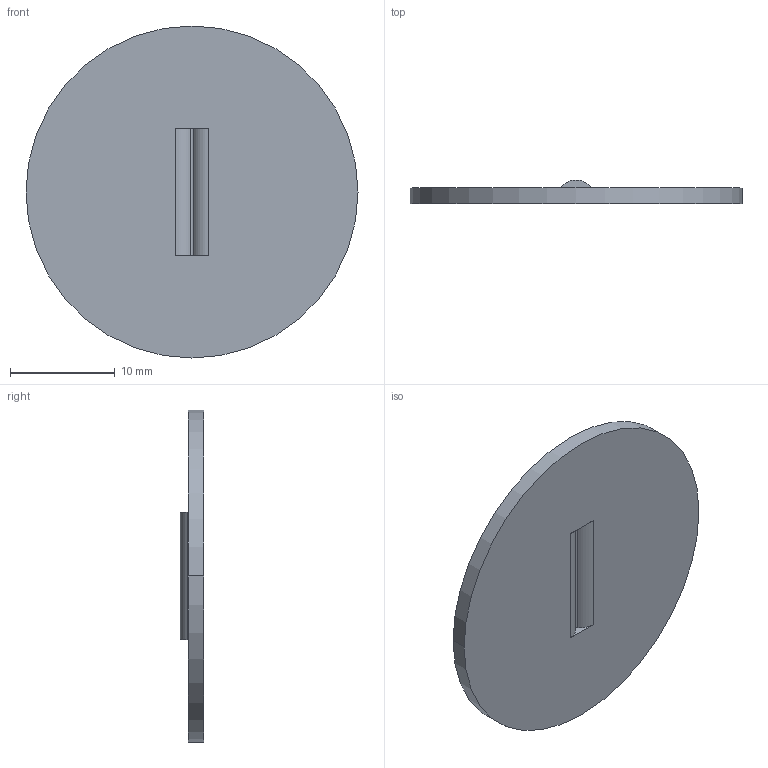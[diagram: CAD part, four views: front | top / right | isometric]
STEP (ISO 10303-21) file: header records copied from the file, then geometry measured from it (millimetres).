
FILE_DESCRIPTION (( 'STEP AP203' ), '1' );
FILE_NAME ('1050242-10.STEP', '2024-11-14T17:34:35', ( '' ), ( '' ), 'SwSTEP 2.0', 'SolidWorks 2024', '' );
FILE_SCHEMA (( 'CONFIG_CONTROL_DESIGN' ));
Length unit declared in the file: inch
Products named in the file (1): 1050242-10
Bounding box: 31.75 x 2.25 x 31.75 mm (x, y, z)
Volume: 1195.2 mm3; surface area: 1749.3 mm2
Topology: 1 solids, 1 shells, 14 faces, 30 edges, 20 vertices
Faces by surface type: cylinder 8, plane 6
Entity records: 469 total; most frequent: DIRECTION 76, CARTESIAN_POINT 65, ORIENTED_EDGE 60, AXIS2_PLACEMENT_3D 31, EDGE_CURVE 30, VERTEX_POINT 20, EDGE_LOOP 16, CIRCLE 16
